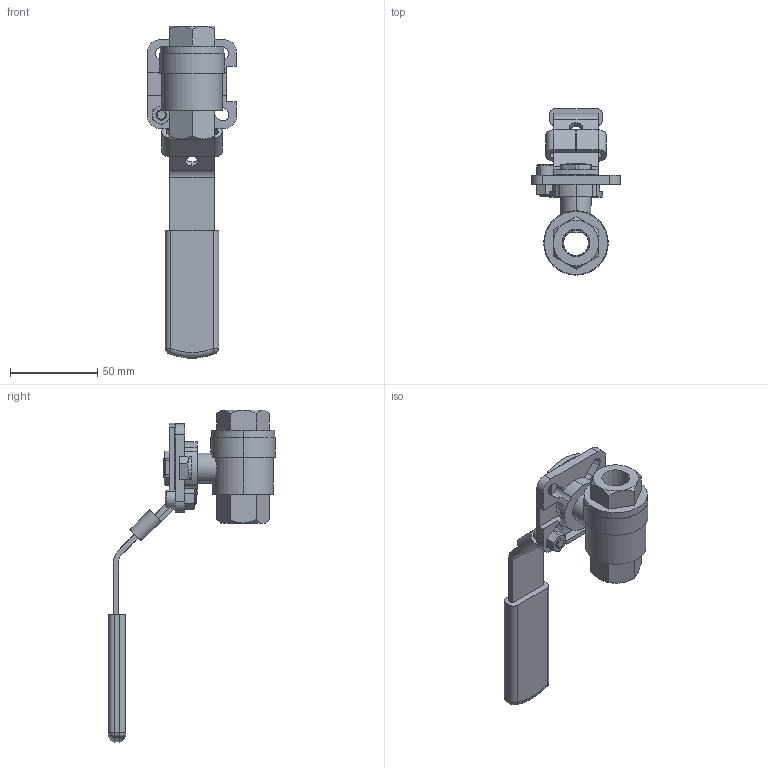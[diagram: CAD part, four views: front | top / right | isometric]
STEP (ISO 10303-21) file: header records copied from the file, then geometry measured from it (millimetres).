
FILE_DESCRIPTION (( 'STEP AP214' ), '1' );
FILE_NAME ('22-TH-0050-XXX.STEP', '2019-08-01T20:34:13', ( '' ), ( '' ), 'SwSTEP 2.0', 'SolidWorks 2019', '' );
FILE_SCHEMA (( 'AUTOMOTIVE_DESIGN' ));
Length unit declared in the file: inch
Products named in the file (9): 22554; hex nut style 2_am_B18.2.4.2M - Hex nut, Style 2,  M6 x 1 --D-N; socket head cap screw_am_B18.3.1M - 6 x 1.0 x 12 Hex SHCS -- 12NHX; 22559; 22560; hex jam nut_ai_HJNUT 0.4375-14-D-N; 22-TH-0050-XXX; 22551; 22558
Assembly tree (8 placements, depth 2):
  22-TH-0050-XXX
    22554
    hex jam nut_ai_HJNUT 0.4375-14-D-N
    22551
    22560
    socket head cap screw_am_B18.3.1M - 6 x 1.0 x 12 Hex SHCS -- 12NHX
    hex nut style 2_am_B18.2.4.2M - Hex nut, Style 2,  M6 x 1 --D-N
    22559
    22558
Bounding box: 50.8 x 95.71 x 190.65 mm (x, y, z)
Volume: 92097.5 mm3; surface area: 40489.3 mm2
Topology: 8 solids, 8 shells, 324 faces, 785 edges, 475 vertices
Faces by surface type: plane 186, cylinder 78, cone 52, torus 4, sphere 4
Entity records: 10443 total; most frequent: CARTESIAN_POINT 2175, DIRECTION 1611, ORIENTED_EDGE 1558, EDGE_CURVE 779, AXIS2_PLACEMENT_3D 577, VERTEX_POINT 475, LINE 457, VECTOR 457
